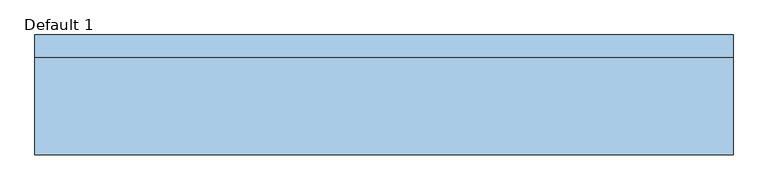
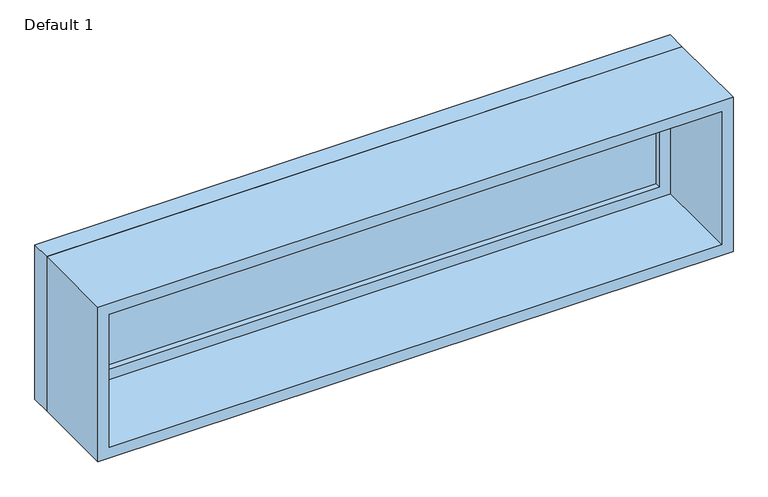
"""IFC4 building model written with IfcOpenShell, lengths in millimetres: window geometry, Planitar-Fixed : Default 1."""

from ifc_helpers import new_model, si_unit, frame, origin, place, context, project, spatial, polyline, outline, extrude, source, transform, mapped, element, save


def default_1_2c6ce71a(model_context):
    return source(origin(), model_context, "Body", "SweptSolid", [
        extrude(outline(polyline([(1352.6, -870.0), (933.4, -870.0), (933.4, 870.0), (1352.6, 870.0), (1352.6, -870.0)]), holes=[polyline([(1308.6, -826.0), (1308.6, 826.0), (977.4, 826.0), (977.4, -826.0), (1308.6, -826.0)])]), frame((0.0, 108.7, 0.0), z_axis=(0.0, 1.0, 0.0), x_axis=(0.0, 0.0, 1.0)), (0.0, 0.0, 1.0), 44.0),
        extrude(outline(polyline([(1371.6, -889.0), (914.4, -889.0), (914.4, 889.0), (1371.6, 889.0), (1371.6, -889.0)]), holes=[polyline([(1352.6, -870.0), (1352.6, 870.0), (933.4, 870.0), (933.4, -870.0), (1352.6, -870.0)])]), frame((0.0, 108.7, 0.0), z_axis=(0.0, 1.0, 0.0), x_axis=(0.0, 0.0, 1.0)), (0.0, 0.0, 1.0), 56.7),
        extrude(outline(polyline([(1371.6, -889.0), (914.4, -889.0), (914.4, 889.0), (1371.6, 889.0), (1371.6, -889.0)]), holes=[polyline([(1339.6, -857.0), (1339.6, 857.0), (946.4, 857.0), (946.4, -857.0), (1339.6, -857.0)])]), frame((0.0, -139.4, 0.0), z_axis=(0.0, 1.0, 0.0), x_axis=(0.0, 0.0, 1.0)), (0.0, 0.0, 1.0), 248.1),
        extrude(outline(polyline([(-826.0, 136.7), (826.0, 136.7), (826.0, 124.7), (-826.0, 124.7), (-826.0, 136.7)])), frame((0.0, 0.0, 977.4), z_axis=(0.0, 0.0, 1.0), x_axis=(1.0, 0.0, 0.0)), (0.0, 0.0, 1.0), 331.2),
    ])


if __name__ == "__main__":
    model = new_model("IFC4")
    model_context = context("Model", 3, world=origin())
    ifc_project = project(units=[si_unit("LENGTHUNIT", "METRE", prefix="MILLI")], contexts=[model_context])
    site = spatial("IfcSite", under=ifc_project)
    building = spatial("IfcBuilding", under=site)
    placement = place(None, origin())
    default_1_shape = default_1_2c6ce71a(model_context)
    element("IfcWindow", 1, ObjectType="Planitar-Fixed : Default 1", at=placement, inside=building, context=model_context, shape_type="MappedRepresentation", body=[
        mapped(default_1_shape, transform((0.0, 0.0, 0.0), x_axis=(1.0, 0.0, 0.0), y_axis=(0.0, 1.0, 0.0), z_axis=(0.0, 0.0, 1.0))),
    ])
    save(model, "model.ifc")
